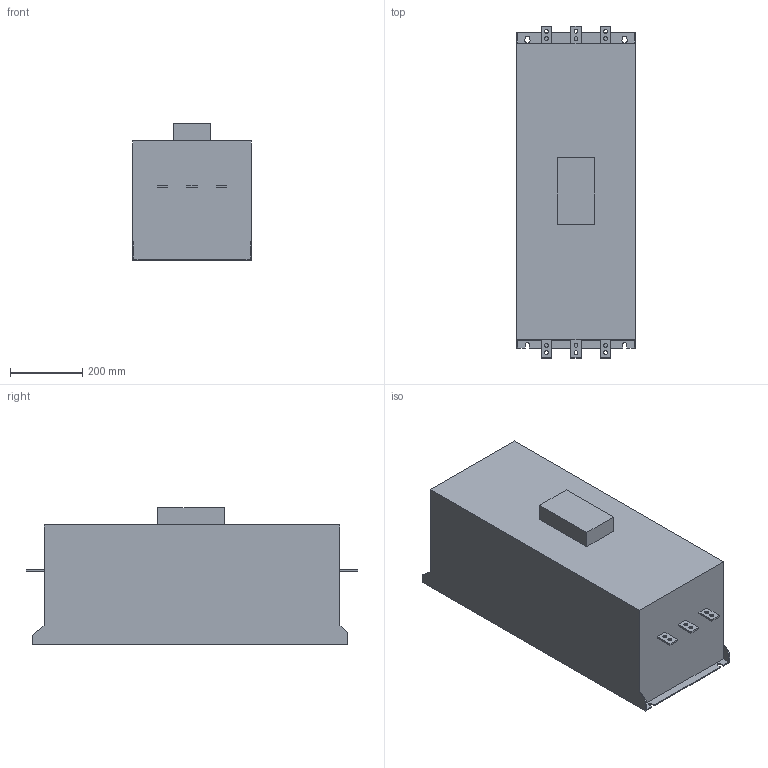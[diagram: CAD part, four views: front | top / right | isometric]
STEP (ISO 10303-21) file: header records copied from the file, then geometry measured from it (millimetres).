
FILE_DESCRIPTION(/* description */ (''),/* implementation_level */ '2;1');
FILE_NAME(/* name */ 'O:\БЭМ\Personal\Абрамов\262-20-1 ТП Драчево\3D Inventor\MCD1\MCD5 F6.stp',/* time_stamp */ '2023-10-12T06:18:08+03:00',/* author */ ('a.abramov'),/* organization */ (''),/* preprocessor_version */ 'ST-DEVELOPER v18.1',/* originating_system */ 'Autodesk Inventor 2022',/* authorisation */ '');
FILE_SCHEMA (('AUTOMOTIVE_DESIGN { 1 0 10303 214 3 1 1 }'));
Length unit declared in the file: millimetre
Products named in the file (1): MCD5 F6
Bounding box: 330 x 921 x 379 mm (x, y, z)
Volume: 90712708.1 mm3; surface area: 1395220.2 mm2
Topology: 1 solids, 1 shells, 79 faces, 210 edges, 140 vertices
Faces by surface type: plane 61, cylinder 18
Full cylindrical faces by diameter (mm): 11 x12
Entity records: 2537 total; most frequent: CARTESIAN_POINT 430, ORIENTED_EDGE 420, DIRECTION 406, EDGE_CURVE 210, LINE 174, VECTOR 174, VERTEX_POINT 140, AXIS2_PLACEMENT_3D 116
